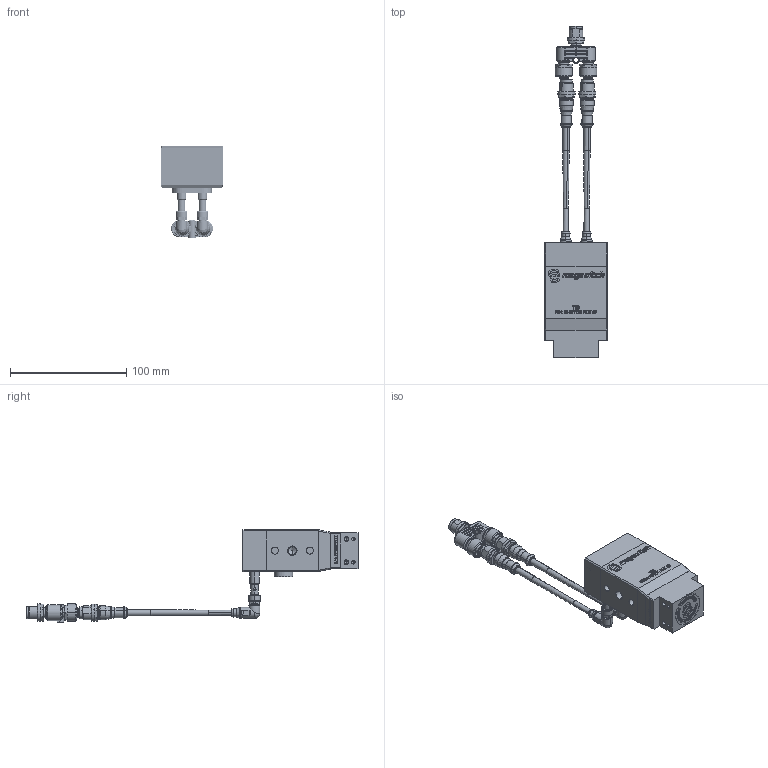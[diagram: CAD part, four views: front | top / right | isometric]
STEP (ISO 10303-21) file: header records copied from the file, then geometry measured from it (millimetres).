
FILE_DESCRIPTION (( 'STEP AP214' ), '1' );
FILE_NAME ('8800916_CF.STEP', '2023-10-03T15:13:14', ( '' ), ( '' ), 'SwSTEP 2.0', 'SolidWorks 2022', '' );
FILE_SCHEMA (( 'AUTOMOTIVE_DESIGN' ));
Length unit declared in the file: millimetre
Products named in the file (20): 7000536; 320142; 8800754; 8800916_CF; 180385; 8800699; RAS-020-SQ ACTUATOR-002 - Toyota - Design Concept 3 - Double Gasket-1; 3209953; 1801304-1; 3202041; 8800750_IME08-#B####T#K; 280073; 280060-1; 3001502; 3001730; 8800755; New_actuator_shaft -  Toyota- Shorter-1; 240657; 80001124; 3002258
Assembly tree (25 placements, depth 5):
  8800916_CF
    80001124
      7000536
        240657
        320142
      280073
        280060-1
          RAS-020-SQ ACTUATOR-002 - Toyota - Design Concept 3 - Double Gasket-1
          1801304-1  x2
          New_actuator_shaft -  Toyota- Shorter-1
        3001730
      3001502  x2
    8800699
      3002258
      3209953
      3202041  x2
      180385  x2
    8800754
    8800750_IME08-#B####T#K  x2
    8800755  x2
Bounding box: 54 x 285.79 x 79.66 mm (x, y, z)
Volume: 207086.9 mm3; surface area: 72041.6 mm2
Topology: 20 solids, 20 shells, 3604 faces, 9369 edges, 6107 vertices
Faces by surface type: plane 1501, cylinder 1035, bspline 757, cone 267, torus 44
Entity records: 132583 total; most frequent: CARTESIAN_POINT 57321, ORIENTED_EDGE 15002, DIRECTION 10965, EDGE_CURVE 7501, VERTEX_POINT 4926, LINE 4325, VECTOR 4325, AXIS2_PLACEMENT_3D 3320
